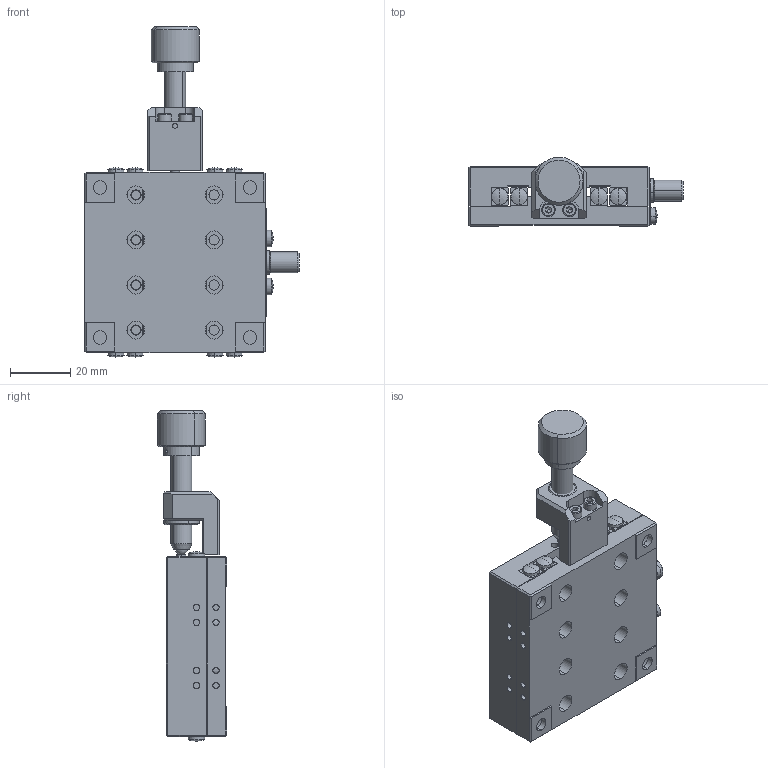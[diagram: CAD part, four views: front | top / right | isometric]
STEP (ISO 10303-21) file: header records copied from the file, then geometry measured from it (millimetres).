
FILE_DESCRIPTION (( 'STEP AP203' ), '1' );
FILE_NAME ('AK13-6020C.step', '2019-05-09T02:40:18', ( '' ), ( '' ), 'SwSTEP 2.0', 'SolidWorks 2017', '' );
FILE_SCHEMA (( 'CONFIG_CONTROL_DESIGN' ));
Length unit declared in the file: millimetre
Products named in the file (1): AK13-6020C
Bounding box: 71.3 x 22.99 x 109.93 mm (x, y, z)
Surface area: 32014.8 mm2 (no closed solid volume)
Topology: 0 solids, 28 shells, 596 faces, 2049 edges, 1394 vertices
Faces by surface type: plane 354, cylinder 150, cone 50, torus 20, bspline 16, sphere 6
Entity records: 22222 total; most frequent: CARTESIAN_POINT 4449, DIRECTION 3799, ORIENTED_EDGE 3281, EDGE_CURVE 2008, VERTEX_POINT 1391, VECTOR 1285, LINE 1285, AXIS2_PLACEMENT_3D 1257
